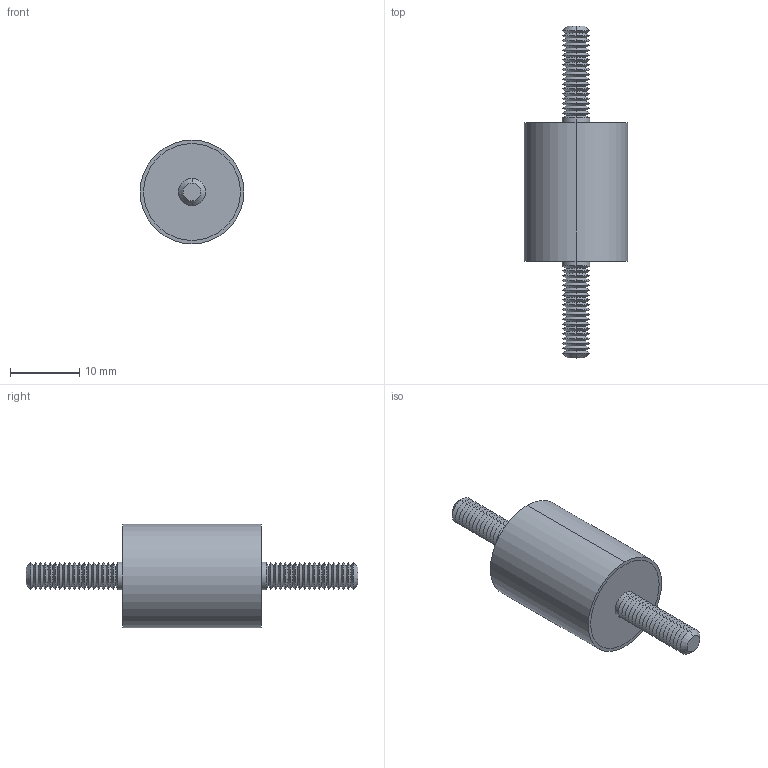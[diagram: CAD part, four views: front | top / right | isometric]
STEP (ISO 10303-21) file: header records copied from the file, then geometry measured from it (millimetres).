
FILE_DESCRIPTION (( 'STEP AP203' ), '1' );
FILE_NAME ('61040.W0154.step', '2019-09-24T22:24:21', ( '' ), ( '' ), 'SwSTEP 2.0', 'SolidWorks 2017', '' );
FILE_SCHEMA (( 'CONFIG_CONTROL_DESIGN' ));
Length unit declared in the file: millimetre
Products named in the file (4): Part3_61040.W0154; Part2_61040.W0154; 61040.W0154; Part1_61040.W0154
Assembly tree (3 placements, depth 2):
  61040.W0154
    Part1_61040.W0154
    Part2_61040.W0154
    Part3_61040.W0154
Bounding box: 15 x 48 x 15 mm (x, y, z)
Volume: 3794.4 mm3; surface area: 2648.6 mm2
Topology: 3 solids, 3 shells, 172 faces, 338 edges, 176 vertices
Faces by surface type: cone 148, cylinder 14, plane 10
Entity records: 4708 total; most frequent: DIRECTION 870, CARTESIAN_POINT 692, ORIENTED_EDGE 676, AXIS2_PLACEMENT_3D 354, EDGE_CURVE 338, EDGE_LOOP 176, VERTEX_POINT 176, CIRCLE 176
